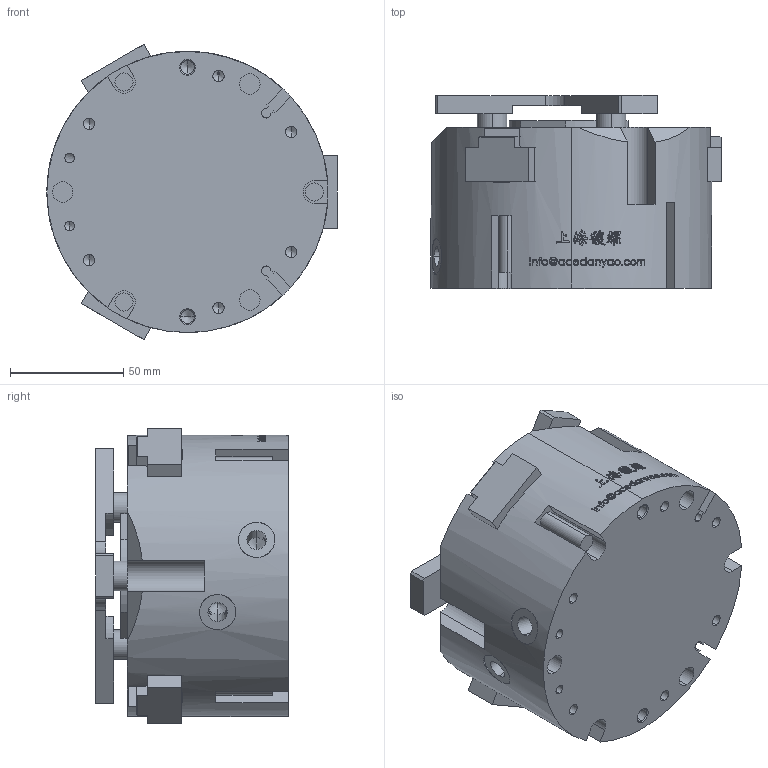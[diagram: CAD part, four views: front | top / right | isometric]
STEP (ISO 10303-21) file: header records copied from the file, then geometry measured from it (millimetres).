
FILE_DESCRIPTION (( 'STEP AP203' ), '1' );
FILE_NAME ('MAC3-125-C1-P-原始檔-組合-W106.04.14.STEP', '2017-04-14T03:23:59', ( 'DanyaoCAD' ), ( '' ), 'SwSTEP 2.0', 'SolidWorks 2016', '' );
FILE_SCHEMA (( 'CONFIG_CONTROL_DESIGN' ));
Length unit declared in the file: millimetre
Products named in the file (5): Griffa; Coperchio; Corpo; Piattello; MAC3-125-C1-P-原始檔-組合-W106.04.14
Assembly tree (6 placements, depth 2):
  MAC3-125-C1-P-原始檔-組合-W106.04.14
    Griffa  x3
    Coperchio
    Corpo
    Piattello
Bounding box: 128 x 85 x 130.32 mm (x, y, z)
Volume: 818383.7 mm3; surface area: 120662.1 mm2
Topology: 6 solids, 6 shells, 1169 faces, 3222 edges, 2108 vertices
Faces by surface type: bspline 665, plane 270, cylinder 178, cone 56
Entity records: 92182 total; most frequent: CARTESIAN_POINT 69356, ORIENTED_EDGE 6044, EDGE_CURVE 3022, DIRECTION 2190, B_SPLINE_CURVE_WITH_KNOTS 2046, VERTEX_POINT 2004, EDGE_LOOP 1196, ADVANCED_FACE 1103
